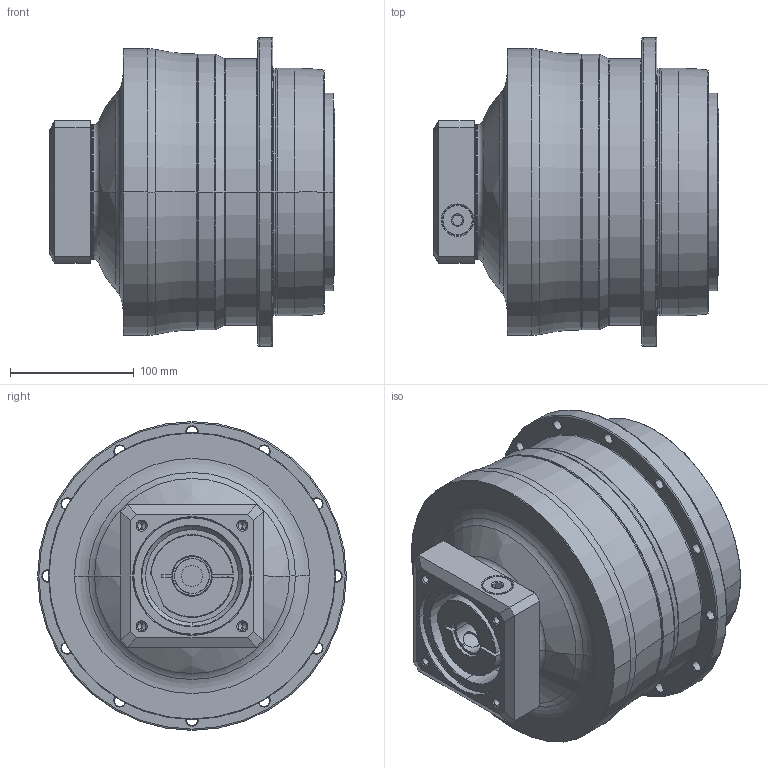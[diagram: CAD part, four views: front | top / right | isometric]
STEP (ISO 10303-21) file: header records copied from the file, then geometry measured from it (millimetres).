
FILE_DESCRIPTION((''),'2;1');
FILE_NAME('AH200_2ST_28-P0409600101_ASM','2016-08-12T',('d01943'),(''),'PRO/ENGINEER BY PARAMETRIC TECHNOLOGY CORPORATION, 2008410','PRO/ENGINEER BY PARAMETRIC TECHNOLOGY CORPORATION, 2008410','');
FILE_SCHEMA(('CONFIG_CONTROL_DESIGN'));
Length unit declared in the file: millimetre
Products named in the file (8): P0278600003; P0359600002; P1317600101; P0409600101; P0503600010; P0912501001; 21711418017; AH200_2ST_28-P0409600101_ASM
Assembly tree (7 placements, depth 2):
  AH200_2ST_28-P0409600101_ASM
    P0278600003
    P0359600002
    P1317600101
    P0409600101
    P0503600010
    P0912501001
    21711418017
Bounding box: 230.5 x 249.5 x 249.5 mm (x, y, z)
Volume: 6961812.2 mm3; surface area: 504610.1 mm2
Topology: 8 solids, 8 shells, 553 faces, 1291 edges, 759 vertices
Faces by surface type: cylinder 206, cone 170, plane 95, torus 66, bspline 16
Entity records: 20345 total; most frequent: CARTESIAN_POINT 7487, DIRECTION 2897, ORIENTED_EDGE 2490, EDGE_CURVE 1245, AXIS2_PLACEMENT_3D 1225, VERTEX_POINT 759, CIRCLE 673, EDGE_LOOP 642
